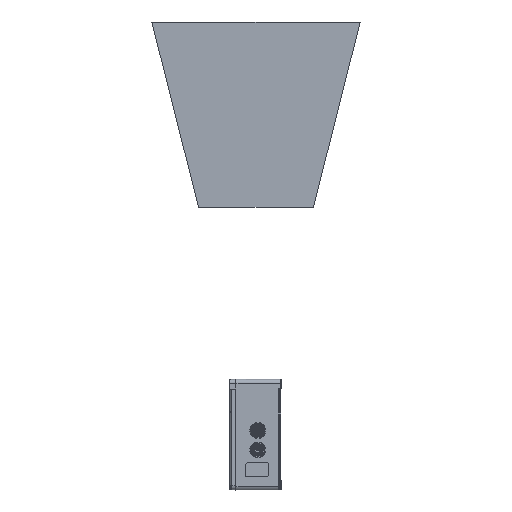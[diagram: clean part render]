
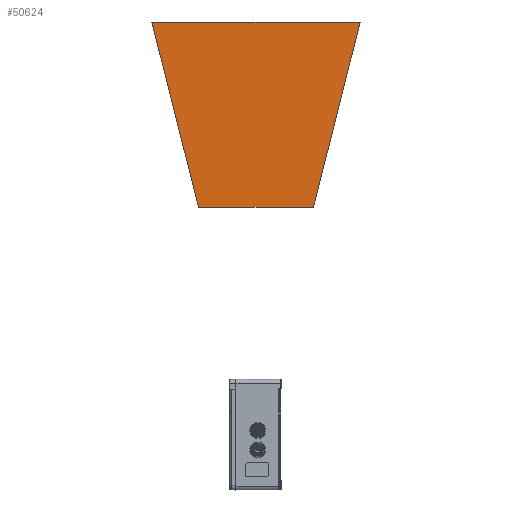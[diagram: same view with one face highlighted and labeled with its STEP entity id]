
A CAD part, left-side view. The second image highlights one B-rep face of the part: STEP entity #50624.
In plain terms, the highlighted planar face has unit normal (-1, 0, 0).
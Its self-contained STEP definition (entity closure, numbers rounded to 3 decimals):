
#50585=DIRECTION('',(0.,1.,0.));
#50586=VECTOR('',#50585,130.);
#50587=CARTESIAN_POINT('',(85.4,-88.,257.5));
#50588=LINE('',#50587,#50586);
#50589=DIRECTION('',(0.,0.245,0.97));
#50590=VECTOR('',#50589,216.585);
#50591=CARTESIAN_POINT('',(85.4,42.,257.5));
#50592=LINE('',#50591,#50590);
#50593=DIRECTION('',(0.,-1.,0.));
#50594=VECTOR('',#50593,236.);
#50595=CARTESIAN_POINT('',(85.4,95.,467.5));
#50596=LINE('',#50595,#50594);
#50597=DIRECTION('',(0.,0.245,-0.97));
#50598=VECTOR('',#50597,216.585);
#50599=CARTESIAN_POINT('',(85.4,-141.,467.5));
#50600=LINE('',#50599,#50598);
#50601=CARTESIAN_POINT('',(85.4,-88.,257.5));
#50602=CARTESIAN_POINT('',(85.4,42.,257.5));
#50603=VERTEX_POINT('',#50601);
#50604=VERTEX_POINT('',#50602);
#50605=CARTESIAN_POINT('',(85.4,95.,467.5));
#50606=VERTEX_POINT('',#50605);
#50607=CARTESIAN_POINT('',(85.4,-141.,467.5));
#50608=VERTEX_POINT('',#50607);
#50609=CARTESIAN_POINT('',(85.4,0.,0.));
#50610=DIRECTION('',(-1.,0.,0.));
#50611=DIRECTION('',(0.,-1.,0.));
#50612=AXIS2_PLACEMENT_3D('',#50609,#50610,#50611);
#50613=PLANE('',#50612);
#50615=ORIENTED_EDGE('',*,*,#50614,.T.);
#50617=ORIENTED_EDGE('',*,*,#50616,.T.);
#50619=ORIENTED_EDGE('',*,*,#50618,.T.);
#50621=ORIENTED_EDGE('',*,*,#50620,.T.);
#50622=EDGE_LOOP('',(#50615,#50617,#50619,#50621));
#50623=FACE_OUTER_BOUND('',#50622,.F.);
#50624=ADVANCED_FACE('',(#50623),#50613,.T.);
#50614=EDGE_CURVE('',#50603,#50604,#50588,.T.);
#50616=EDGE_CURVE('',#50604,#50606,#50592,.T.);
#50618=EDGE_CURVE('',#50606,#50608,#50596,.T.);
#50620=EDGE_CURVE('',#50608,#50603,#50600,.T.);
